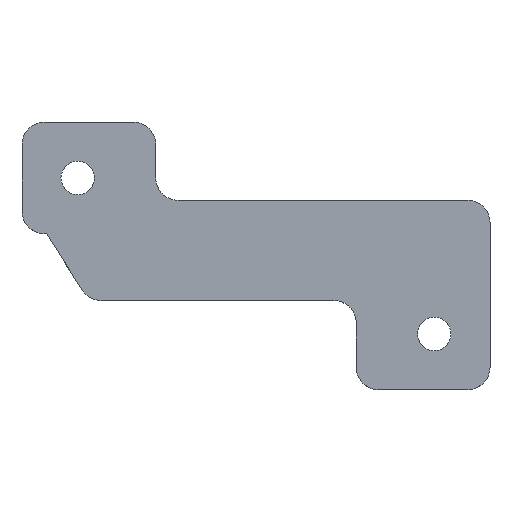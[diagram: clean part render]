
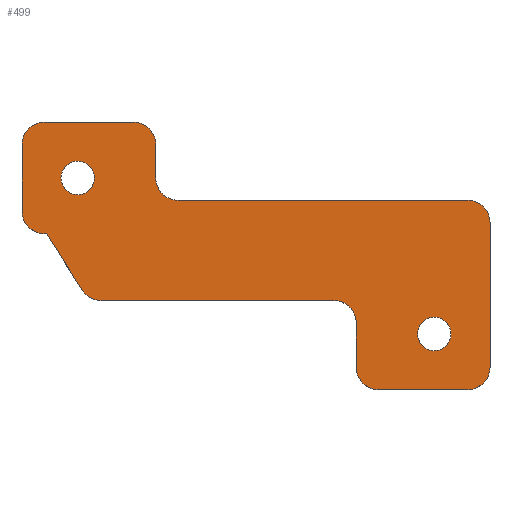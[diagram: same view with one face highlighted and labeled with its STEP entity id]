
A CAD part, top view. The second image highlights one B-rep face of the part: STEP entity #499.
In plain terms, the highlighted planar face has unit normal (0, 0, 1).
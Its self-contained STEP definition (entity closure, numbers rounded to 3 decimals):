
#19=FACE_BOUND('',#93,.T.);
#20=FACE_BOUND('',#94,.T.);
#34=PLANE('',#566);
#61=FACE_OUTER_BOUND('',#92,.T.);
#92=EDGE_LOOP('',(#439,#440,#441,#442,#443,#444,#445,#446,#447,#448,#449,
#450,#451,#452,#453,#454,#455,#456,#457));
#93=EDGE_LOOP('',(#458));
#94=EDGE_LOOP('',(#459));
#103=LINE('',#759,#146);
#115=LINE('',#802,#158);
#120=LINE('',#816,#163);
#125=LINE('',#830,#168);
#131=LINE('',#847,#174);
#132=LINE('',#849,#175);
#134=LINE('',#853,#177);
#135=LINE('',#855,#178);
#136=LINE('',#857,#179);
#137=LINE('',#859,#180);
#146=VECTOR('',#613,10.);
#158=VECTOR('',#649,10.);
#163=VECTOR('',#664,10.);
#168=VECTOR('',#679,10.);
#174=VECTOR('',#699,10.);
#175=VECTOR('',#702,10.);
#177=VECTOR('',#706,10.);
#178=VECTOR('',#709,10.);
#179=VECTOR('',#712,10.);
#180=VECTOR('',#715,10.);
#187=CIRCLE('',#525,1.5);
#188=CIRCLE('',#527,1.5);
#190=CIRCLE('',#530,2.);
#199=CIRCLE('',#542,2.);
#200=CIRCLE('',#545,2.);
#201=CIRCLE('',#547,2.);
#202=CIRCLE('',#550,2.);
#203=CIRCLE('',#552,2.);
#204=CIRCLE('',#555,2.);
#205=CIRCLE('',#557,2.);
#206=CIRCLE('',#559,2.);
#213=VERTEX_POINT('',#738);
#214=VERTEX_POINT('',#742);
#217=VERTEX_POINT('',#749);
#218=VERTEX_POINT('',#751);
#220=VERTEX_POINT('',#757);
#237=VERTEX_POINT('',#795);
#238=VERTEX_POINT('',#797);
#239=VERTEX_POINT('',#801);
#240=VERTEX_POINT('',#805);
#241=VERTEX_POINT('',#809);
#242=VERTEX_POINT('',#810);
#243=VERTEX_POINT('',#815);
#244=VERTEX_POINT('',#819);
#245=VERTEX_POINT('',#823);
#246=VERTEX_POINT('',#825);
#247=VERTEX_POINT('',#829);
#248=VERTEX_POINT('',#833);
#249=VERTEX_POINT('',#837);
#250=VERTEX_POINT('',#841);
#251=VERTEX_POINT('',#843);
#252=VERTEX_POINT('',#851);
#262=EDGE_CURVE('',#213,#213,#187,.T.);
#264=EDGE_CURVE('',#214,#214,#188,.T.);
#267=EDGE_CURVE('',#217,#218,#190,.T.);
#271=EDGE_CURVE('',#220,#217,#103,.T.);
#290=EDGE_CURVE('',#237,#238,#199,.T.);
#292=EDGE_CURVE('',#239,#238,#115,.T.);
#294=EDGE_CURVE('',#239,#240,#200,.T.);
#296=EDGE_CURVE('',#241,#242,#201,.T.);
#299=EDGE_CURVE('',#242,#243,#120,.T.);
#301=EDGE_CURVE('',#243,#244,#202,.T.);
#304=EDGE_CURVE('',#245,#246,#203,.T.);
#306=EDGE_CURVE('',#247,#246,#125,.T.);
#308=EDGE_CURVE('',#248,#220,#204,.T.);
#310=EDGE_CURVE('',#247,#249,#205,.T.);
#313=EDGE_CURVE('',#250,#251,#206,.T.);
#315=EDGE_CURVE('',#251,#248,#131,.T.);
#316=EDGE_CURVE('',#250,#249,#132,.T.);
#318=EDGE_CURVE('',#245,#252,#134,.T.);
#319=EDGE_CURVE('',#252,#244,#135,.T.);
#320=EDGE_CURVE('',#240,#241,#136,.T.);
#321=EDGE_CURVE('',#237,#218,#137,.T.);
#439=ORIENTED_EDGE('',*,*,#267,.F.);
#440=ORIENTED_EDGE('',*,*,#271,.F.);
#441=ORIENTED_EDGE('',*,*,#308,.F.);
#442=ORIENTED_EDGE('',*,*,#315,.F.);
#443=ORIENTED_EDGE('',*,*,#313,.F.);
#444=ORIENTED_EDGE('',*,*,#316,.T.);
#445=ORIENTED_EDGE('',*,*,#310,.F.);
#446=ORIENTED_EDGE('',*,*,#306,.T.);
#447=ORIENTED_EDGE('',*,*,#304,.F.);
#448=ORIENTED_EDGE('',*,*,#318,.T.);
#449=ORIENTED_EDGE('',*,*,#319,.T.);
#450=ORIENTED_EDGE('',*,*,#301,.F.);
#451=ORIENTED_EDGE('',*,*,#299,.F.);
#452=ORIENTED_EDGE('',*,*,#296,.F.);
#453=ORIENTED_EDGE('',*,*,#320,.F.);
#454=ORIENTED_EDGE('',*,*,#294,.F.);
#455=ORIENTED_EDGE('',*,*,#292,.T.);
#456=ORIENTED_EDGE('',*,*,#290,.F.);
#457=ORIENTED_EDGE('',*,*,#321,.T.);
#458=ORIENTED_EDGE('',*,*,#262,.T.);
#459=ORIENTED_EDGE('',*,*,#264,.T.);
#499=ADVANCED_FACE('',(#61,#19,#20),#34,.F.);
#525=AXIS2_PLACEMENT_3D('',#740,#594,#595);
#527=AXIS2_PLACEMENT_3D('',#744,#599,#600);
#530=AXIS2_PLACEMENT_3D('',#752,#606,#607);
#542=AXIS2_PLACEMENT_3D('',#798,#644,#645);
#545=AXIS2_PLACEMENT_3D('',#806,#653,#654);
#547=AXIS2_PLACEMENT_3D('',#811,#658,#659);
#550=AXIS2_PLACEMENT_3D('',#820,#668,#669);
#552=AXIS2_PLACEMENT_3D('',#826,#674,#675);
#555=AXIS2_PLACEMENT_3D('',#834,#683,#684);
#557=AXIS2_PLACEMENT_3D('',#838,#688,#689);
#559=AXIS2_PLACEMENT_3D('',#844,#694,#695);
#566=AXIS2_PLACEMENT_3D('',#860,#716,#717);
#594=DIRECTION('center_axis',(0.,0.,-1.));
#595=DIRECTION('ref_axis',(-1.,0.,0.));
#599=DIRECTION('center_axis',(0.,0.,-1.));
#600=DIRECTION('ref_axis',(-1.,0.,0.));
#606=DIRECTION('center_axis',(0.,0.,-1.));
#607=DIRECTION('ref_axis',(0.707,0.707,0.));
#613=DIRECTION('',(1.,0.,0.));
#644=DIRECTION('center_axis',(0.,0.,-1.));
#645=DIRECTION('ref_axis',(0.707,-0.707,0.));
#649=DIRECTION('',(1.,0.,0.));
#653=DIRECTION('center_axis',(0.,0.,-1.));
#654=DIRECTION('ref_axis',(-0.707,-0.707,0.));
#658=DIRECTION('center_axis',(0.,0.,1.));
#659=DIRECTION('ref_axis',(0.707,0.707,0.));
#664=DIRECTION('',(-1.,0.,0.));
#668=DIRECTION('center_axis',(0.,0.,-1.));
#669=DIRECTION('ref_axis',(-0.482,-0.876,0.));
#674=DIRECTION('center_axis',(0.,0.,-1.));
#675=DIRECTION('ref_axis',(-0.707,-0.707,0.));
#679=DIRECTION('',(0.,-1.,0.));
#683=DIRECTION('center_axis',(0.,0.,1.));
#684=DIRECTION('ref_axis',(-0.707,-0.707,0.));
#688=DIRECTION('center_axis',(0.,0.,-1.));
#689=DIRECTION('ref_axis',(-0.707,0.707,0.));
#694=DIRECTION('center_axis',(0.,0.,-1.));
#695=DIRECTION('ref_axis',(0.707,0.707,0.));
#699=DIRECTION('',(0.,-1.,0.));
#702=DIRECTION('',(-1.,0.,0.));
#706=DIRECTION('',(1.,0.,0.));
#709=DIRECTION('',(0.535,-0.845,0.));
#712=DIRECTION('',(0.,1.,0.));
#715=DIRECTION('',(0.,1.,0.));
#716=DIRECTION('center_axis',(0.,0.,-1.));
#717=DIRECTION('ref_axis',(-1.,0.,0.));
#738=CARTESIAN_POINT('',(17.5,-54.,-7.));
#740=CARTESIAN_POINT('Origin',(16.,-54.,-7.));
#742=CARTESIAN_POINT('',(-14.5,-40.,-7.));
#744=CARTESIAN_POINT('Origin',(-16.,-40.,-7.));
#749=CARTESIAN_POINT('',(19.,-42.,-7.));
#751=CARTESIAN_POINT('',(21.,-44.,-7.));
#752=CARTESIAN_POINT('Origin',(19.,-44.,-7.));
#757=CARTESIAN_POINT('',(-7.,-42.,-7.));
#759=CARTESIAN_POINT('',(-9.,-42.,-7.));
#795=CARTESIAN_POINT('',(21.,-57.,-7.));
#797=CARTESIAN_POINT('',(19.,-59.,-7.));
#798=CARTESIAN_POINT('Origin',(19.,-57.,-7.));
#801=CARTESIAN_POINT('',(11.,-59.,-7.));
#802=CARTESIAN_POINT('',(9.,-59.,-7.));
#805=CARTESIAN_POINT('',(9.,-57.,-7.));
#806=CARTESIAN_POINT('Origin',(11.,-57.,-7.));
#809=CARTESIAN_POINT('',(9.,-53.,-7.));
#810=CARTESIAN_POINT('',(7.,-51.,-7.));
#811=CARTESIAN_POINT('Origin',(7.,-53.,-7.));
#815=CARTESIAN_POINT('',(-13.899,-51.,-7.));
#816=CARTESIAN_POINT('',(9.,-51.,-7.));
#819=CARTESIAN_POINT('',(-15.589,-50.07,-7.));
#820=CARTESIAN_POINT('Origin',(-13.899,-49.,-7.));
#823=CARTESIAN_POINT('',(-19.,-45.,-7.));
#825=CARTESIAN_POINT('',(-21.,-43.,-7.));
#826=CARTESIAN_POINT('Origin',(-19.,-43.,-7.));
#829=CARTESIAN_POINT('',(-21.,-37.,-7.));
#830=CARTESIAN_POINT('',(-21.,-35.,-7.));
#833=CARTESIAN_POINT('',(-9.,-40.,-7.));
#834=CARTESIAN_POINT('Origin',(-7.,-40.,-7.));
#837=CARTESIAN_POINT('',(-19.,-35.,-7.));
#838=CARTESIAN_POINT('Origin',(-19.,-37.,-7.));
#841=CARTESIAN_POINT('',(-11.,-35.,-7.));
#843=CARTESIAN_POINT('',(-9.,-37.,-7.));
#844=CARTESIAN_POINT('Origin',(-11.,-37.,-7.));
#847=CARTESIAN_POINT('',(-9.,-35.,-7.));
#849=CARTESIAN_POINT('',(-18.8,-35.,-7.));
#851=CARTESIAN_POINT('',(-18.8,-45.,-7.));
#853=CARTESIAN_POINT('',(-21.,-45.,-7.));
#855=CARTESIAN_POINT('',(-18.8,-45.,-7.));
#857=CARTESIAN_POINT('',(9.,-59.,-7.));
#859=CARTESIAN_POINT('',(21.,-59.,-7.));
#860=CARTESIAN_POINT('Origin',(-16.,-40.,-7.));
